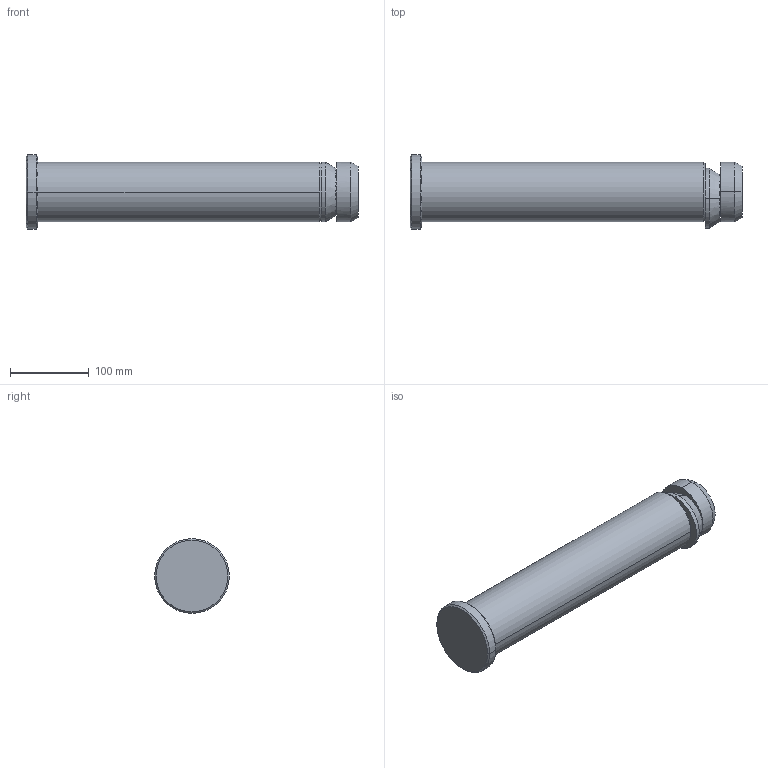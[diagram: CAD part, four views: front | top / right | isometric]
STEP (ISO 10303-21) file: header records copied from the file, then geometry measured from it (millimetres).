
FILE_DESCRIPTION(('CATIA V5 STEP Exchange'),'2;1');
FILE_NAME('C:\Users\Raffaele\Desktop\3D X SITO CF\PERNI -STAFFE SOLLEVAMENTO\395A\GSB_OILLESS_C10309076422\STEP-2.03\395A-076-422.stp','2019-07-02T14:53:30+00:00',('none'),('none'),'CATIA Version 5 Release 20 GA (IN-10)','CATIA V5 STEP AP203','none');
FILE_SCHEMA(('CONFIG_CONTROL_DESIGN'));
Length unit declared in the file: millimetre
Products named in the file (1): 395A-076-422
Bounding box: 422 x 95 x 95 mm (x, y, z)
Volume: 1929793.3 mm3; surface area: 121151 mm2
Topology: 1 solids, 1 shells, 43 faces, 108 edges, 72 vertices
Faces by surface type: cylinder 20, plane 13, cone 10
Entity records: 1553 total; most frequent: CARTESIAN_POINT 507, ORIENTED_EDGE 216, DIRECTION 177, EDGE_CURVE 108, AXIS2_PLACEMENT_3D 97, VERTEX_POINT 72, CIRCLE 53, EDGE_LOOP 48
